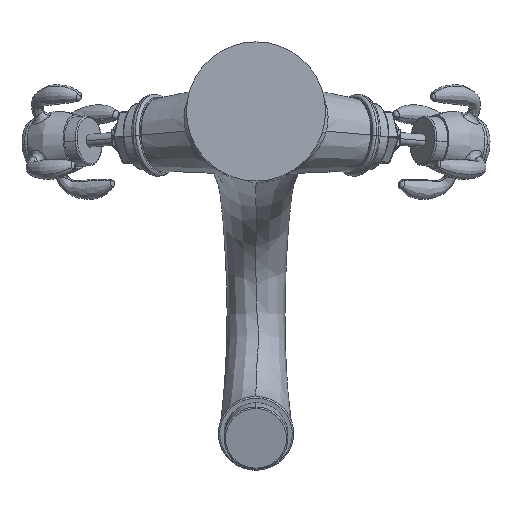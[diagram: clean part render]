
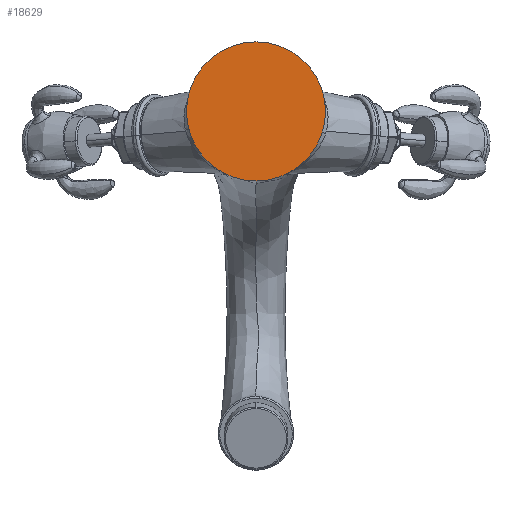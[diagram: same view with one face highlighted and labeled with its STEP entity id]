
A CAD part, front view. The second image highlights one B-rep face of the part: STEP entity #18629.
In plain terms, the highlighted planar face has unit normal (0, -1, 0).
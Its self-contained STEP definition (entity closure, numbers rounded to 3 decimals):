
#464 = AXIS2_PLACEMENT_3D ( 'NONE', #18455, #7850, #20232 ) ;
#1177 = VERTEX_POINT ( 'NONE', #15520 ) ;
#2153 = ORIENTED_EDGE ( 'NONE', *, *, #9325, .F. ) ;
#2519 = PLANE ( 'NONE',  #464 ) ;
#6337 = AXIS2_PLACEMENT_3D ( 'NONE', #6711, #19094, #8499 ) ;
#6536 = CIRCLE ( 'NONE', #6337, 49. ) ;
#6711 = CARTESIAN_POINT ( 'NONE',  ( 0., 0., 0. ) ) ;
#7850 = DIRECTION ( 'NONE',  ( 0., 1., 0. ) ) ;
#8499 = DIRECTION ( 'NONE',  ( 0., 0., 1. ) ) ;
#9325 = EDGE_CURVE ( 'NONE', #20642, #1177, #6536, .T. ) ;
#10219 = ORIENTED_EDGE ( 'NONE', *, *, #13172, .F. ) ;
#10326 = CARTESIAN_POINT ( 'NONE',  ( 0., 0., 0. ) ) ;
#10798 = CARTESIAN_POINT ( 'NONE',  ( 0., 0., -49. ) ) ;
#11170 = FACE_OUTER_BOUND ( 'NONE', #20357, .T. ) ;
#12118 = DIRECTION ( 'NONE',  ( 0., 0., 1. ) ) ;
#13172 = EDGE_CURVE ( 'NONE', #1177, #20642, #15739, .T. ) ;
#15520 = CARTESIAN_POINT ( 'NONE',  ( 0., 0., 49. ) ) ;
#15739 = CIRCLE ( 'NONE', #17552, 49. ) ;
#17552 = AXIS2_PLACEMENT_3D ( 'NONE', #10326, #22701, #12118 ) ;
#18455 = CARTESIAN_POINT ( 'NONE',  ( 0., 0., 0. ) ) ;
#18629 = ADVANCED_FACE ( 'NONE', ( #11170 ), #2519, .F. ) ;
#19094 = DIRECTION ( 'NONE',  ( 0., 1., 0. ) ) ;
#20232 = DIRECTION ( 'NONE',  ( 0., 0., 1. ) ) ;
#20357 = EDGE_LOOP ( 'NONE', ( #10219, #2153 ) ) ;
#20642 = VERTEX_POINT ( 'NONE', #10798 ) ;
#22701 = DIRECTION ( 'NONE',  ( 0., 1., 0. ) ) ;
